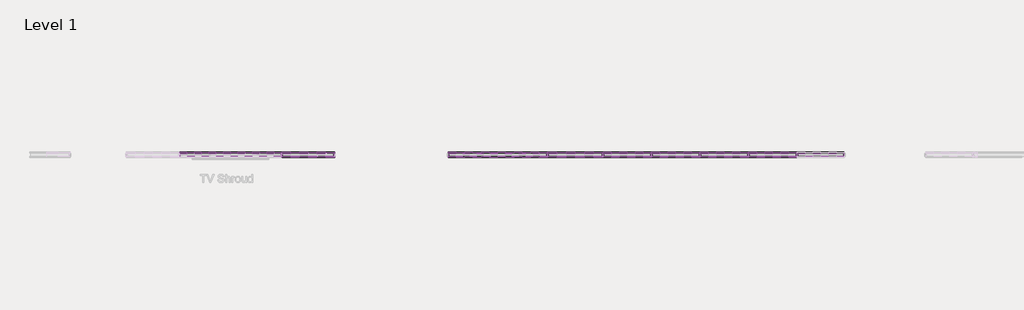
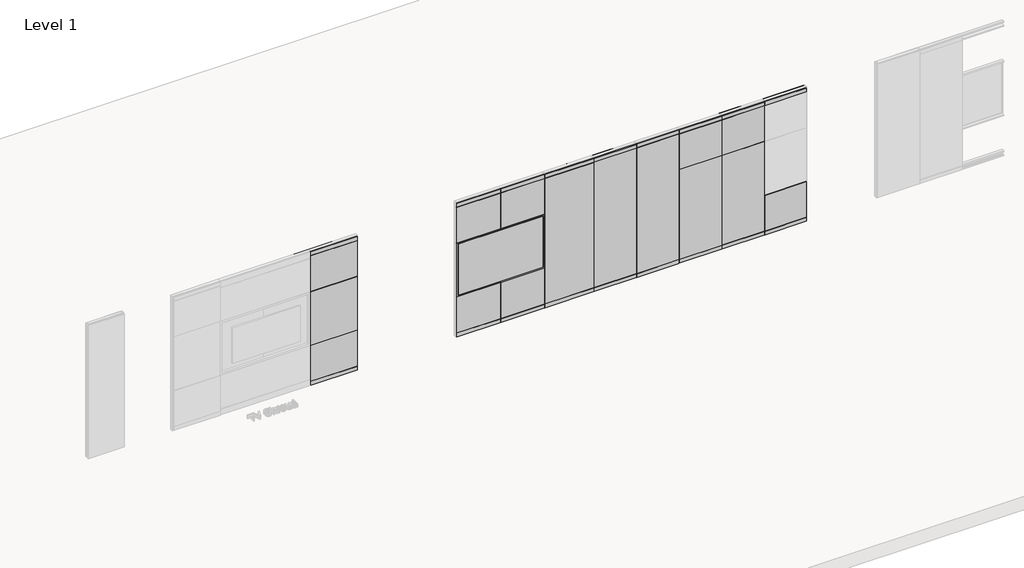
# One storey, part 5 of 22: 106 proxies.
"""IFC4 building model written with IfcOpenShell, lengths in millimetres."""

from ifc_helpers import new_model, si_unit, origin, place, context, project, spatial, transform, mapped, element, save
from components import fascia_teknion_ceiling_and_base_fpb1_fca0640a, fascia_teknion_ceiling_and_base_fpb1_76749516, fascia_teknion_ceiling_and_base_fpb1_3f1045f8, fascia_teknion_ceiling_and_base_fpb1_9cc94717, fascia_teknion_ceiling_and_base_fpb1_c9d9d0ac, fascia_teknion_ceiling_and_base_fpb1_b2a0df2f, fascia_teknion_ceiling_and_base_fpb1_d1f135fe, fascia_teknion_ceiling_and_base_fpb1_22c6959f, fascia_teknion_ceiling_and_base_fpb1_c4170f9c, fascia_teknion_ceiling_and_base_fpb1_a007a032, fascia_teknion_ceiling_and_base_fpb1_f118ea03, frame_teknion_horizontal_rail_5872ae1a, frame_teknion_horizontal_rail_46ee653b, frame_teknion_horizontal_rail_9f707683, frame_teknion_horizontal_rail_d3940d10, frame_teknion_horizontal_rail_569d168c, frame_teknion_horizontal_rail_d62daecc, full_db0fc0de, full_e515b6ae, full_bf9f4bac, level_i_215115a4, level_i_cf48de54, level_i_c1e683c6, level_i_93653ab4, level_i_f9b690e7, level_i_259d5150, level_i_3af106d6, level_ii_d92933f0, level_ii_5838736d, level_ii_eb892959, level_ii_fe5f90b5, level_iii_17d9b208, level_iii_5aa971de, level_iii_61c4658a, level_iii_4beb9e8a, level_iii_939e849f, panel_fascia_teknion_level_ii_f4fefb58, segmented_level_i_b619f2b0, segmented_level_i_235b6383, segmented_level_i_f3371547, segmented_level_i_f396c477, segmented_level_ii_6dac37f0, smart_fascia_c452c61a

model = new_model("IFC4")

# Units and contexts
model_context = context("Model", 3, world=origin())
ifc_project = project(units=[si_unit("LENGTHUNIT", "METRE", prefix="MILLI")], contexts=[model_context])

# Site, building, storey
site = spatial("IfcSite", under=ifc_project)
building = spatial("IfcBuilding", under=site)
storey = spatial("IfcBuildingStorey", under=building, Name="Level 1", Elevation=0.0)

# Proxies
placement = place(None, origin())
fascia_teknion_ceiling_and_base_fpb1_shape = fascia_teknion_ceiling_and_base_fpb1_fca0640a(model_context)
element("IfcBuildingElementProxy", 1, Name="Fascia-Teknion-Ceiling_and_Base : FPB1", ObjectType="Fascia-Teknion-Ceiling_and_Base : FPB1", at=placement, inside=storey, context=model_context, shape_type="MappedRepresentation", body=[
    mapped(fascia_teknion_ceiling_and_base_fpb1_shape, transform((-93753.7687444, 1843.3402105, 15.875), x_axis=(1.0, 0.0, 0.0), y_axis=(0.0, 1.0, 0.0), z_axis=(0.0, 0.0, 1.0))),
])
element("IfcBuildingElementProxy", 2, Name="Fascia-Teknion-Ceiling_and_Base : FPB1", ObjectType="Fascia-Teknion-Ceiling_and_Base : FPB1", at=placement, inside=storey, context=model_context, shape_type="MappedRepresentation", body=[
    mapped(fascia_teknion_ceiling_and_base_fpb1_shape, transform((-92839.3687444, 1843.3402105, 15.875), x_axis=(1.0, 0.0, 0.0), y_axis=(0.0, 1.0, 0.0), z_axis=(0.0, 0.0, 1.0))),
])
element("IfcBuildingElementProxy", 3, Name="Fascia-Teknion-Ceiling_and_Base : FPB1", ObjectType="Fascia-Teknion-Ceiling_and_Base : FPB1", at=placement, inside=storey, context=model_context, shape_type="MappedRepresentation", body=[
    mapped(fascia_teknion_ceiling_and_base_fpb1_shape, transform((-91924.9687444, 1843.3402105, 15.875), x_axis=(1.0, 0.0, 0.0), y_axis=(0.0, 1.0, 0.0), z_axis=(0.0, 0.0, 1.0))),
])
element("IfcBuildingElementProxy", 4, Name="Fascia-Teknion-Ceiling_and_Base : FPB1", ObjectType="Fascia-Teknion-Ceiling_and_Base : FPB1", at=placement, inside=storey, context=model_context, shape_type="MappedRepresentation", body=[
    mapped(fascia_teknion_ceiling_and_base_fpb1_shape, transform((-94668.1687444, 1843.3402105, 15.875), x_axis=(1.0, 0.0, 0.0), y_axis=(0.0, 1.0, 0.0), z_axis=(0.0, 0.0, 1.0))),
])
fascia_teknion_ceiling_and_base_fpb1_2_shape = fascia_teknion_ceiling_and_base_fpb1_76749516(model_context)
element("IfcBuildingElementProxy", 5, Name="Fascia-Teknion-Ceiling_and_Base : FPB1", ObjectType="Fascia-Teknion-Ceiling_and_Base : FPB1", at=placement, inside=storey, context=model_context, shape_type="MappedRepresentation", body=[
    mapped(fascia_teknion_ceiling_and_base_fpb1_2_shape, transform((-91017.5636663, 1843.3402105, 15.875), x_axis=(1.0, 0.0, 0.0), y_axis=(0.0, 1.0, 0.0), z_axis=(0.0, 0.0, 1.0))),
])
fascia_teknion_ceiling_and_base_fpb1_3_shape = fascia_teknion_ceiling_and_base_fpb1_3f1045f8(model_context)
element("IfcBuildingElementProxy", 6, Name="Fascia-Teknion-Ceiling_and_Base : FPB1", ObjectType="Fascia-Teknion-Ceiling_and_Base : FPB1", at=placement, inside=storey, context=model_context, shape_type="MappedRepresentation", body=[
    mapped(fascia_teknion_ceiling_and_base_fpb1_3_shape, transform((-91017.5636663, 1781.3642105, 15.875), x_axis=(1.0, 0.0, 0.0), y_axis=(0.0, 1.0, 0.0), z_axis=(0.0, 0.0, 1.0))),
])
fascia_teknion_ceiling_and_base_fpb1_4_shape = fascia_teknion_ceiling_and_base_fpb1_9cc94717(model_context)
element("IfcBuildingElementProxy", 7, Name="Fascia-Teknion-Ceiling_and_Base : FPB1", ObjectType="Fascia-Teknion-Ceiling_and_Base : FPB1", at=placement, inside=storey, context=model_context, shape_type="MappedRepresentation", body=[
    mapped(fascia_teknion_ceiling_and_base_fpb1_4_shape, transform((-93753.7687444, 1781.3642105, 15.875), x_axis=(1.0, 0.0, 0.0), y_axis=(0.0, 1.0, 0.0), z_axis=(0.0, 0.0, 1.0))),
])
element("IfcBuildingElementProxy", 8, Name="Fascia-Teknion-Ceiling_and_Base : FPB1", ObjectType="Fascia-Teknion-Ceiling_and_Base : FPB1", at=placement, inside=storey, context=model_context, shape_type="MappedRepresentation", body=[
    mapped(fascia_teknion_ceiling_and_base_fpb1_4_shape, transform((-92839.3687444, 1781.3642105, 15.875), x_axis=(1.0, 0.0, 0.0), y_axis=(0.0, 1.0, 0.0), z_axis=(0.0, 0.0, 1.0))),
])
element("IfcBuildingElementProxy", 9, Name="Fascia-Teknion-Ceiling_and_Base : FPB1", ObjectType="Fascia-Teknion-Ceiling_and_Base : FPB1", at=placement, inside=storey, context=model_context, shape_type="MappedRepresentation", body=[
    mapped(fascia_teknion_ceiling_and_base_fpb1_4_shape, transform((-91924.9687444, 1781.3642105, 15.875), x_axis=(1.0, 0.0, 0.0), y_axis=(0.0, 1.0, 0.0), z_axis=(0.0, 0.0, 1.0))),
])
element("IfcBuildingElementProxy", 10, Name="Fascia-Teknion-Ceiling_and_Base : FPB1", ObjectType="Fascia-Teknion-Ceiling_and_Base : FPB1", at=placement, inside=storey, context=model_context, shape_type="MappedRepresentation", body=[
    mapped(fascia_teknion_ceiling_and_base_fpb1_4_shape, transform((-94668.1687444, 1781.3642105, 15.875), x_axis=(1.0, 0.0, 0.0), y_axis=(0.0, 1.0, 0.0), z_axis=(0.0, 0.0, 1.0))),
])
fascia_teknion_ceiling_and_base_fpb1_5_shape = fascia_teknion_ceiling_and_base_fpb1_c9d9d0ac(model_context)
element("IfcBuildingElementProxy", 11, Name="Fascia-Teknion-Ceiling_and_Base : FPB1", ObjectType="Fascia-Teknion-Ceiling_and_Base : FPB1", at=placement, inside=storey, context=model_context, shape_type="MappedRepresentation", body=[
    mapped(fascia_teknion_ceiling_and_base_fpb1_5_shape, transform((-95652.4187444, 1843.3402105, 15.875), x_axis=(1.0, 0.0, 0.0), y_axis=(0.0, 1.0, 0.0), z_axis=(0.0, 0.0, 1.0))),
])
fascia_teknion_ceiling_and_base_fpb1_6_shape = fascia_teknion_ceiling_and_base_fpb1_b2a0df2f(model_context)
element("IfcBuildingElementProxy", 12, Name="Fascia-Teknion-Ceiling_and_Base : FPB1", ObjectType="Fascia-Teknion-Ceiling_and_Base : FPB1", at=placement, inside=storey, context=model_context, shape_type="MappedRepresentation", body=[
    mapped(fascia_teknion_ceiling_and_base_fpb1_6_shape, transform((-95652.4187444, 1781.3642105, 15.875), x_axis=(1.0, 0.0, 0.0), y_axis=(0.0, 1.0, 0.0), z_axis=(0.0, 0.0, 1.0))),
])
fascia_teknion_ceiling_and_base_fpb1_7_shape = fascia_teknion_ceiling_and_base_fpb1_d1f135fe(model_context)
element("IfcBuildingElementProxy", 13, Name="Fascia-Teknion-Ceiling_and_Base : FPB1", ObjectType="Fascia-Teknion-Ceiling_and_Base : FPB1", at=placement, inside=storey, context=model_context, shape_type="MappedRepresentation", body=[
    mapped(fascia_teknion_ceiling_and_base_fpb1_7_shape, transform((-97586.6138616, 1843.3402105, 15.875), x_axis=(1.0, 0.0, 0.0), y_axis=(0.0, 1.0, 0.0), z_axis=(0.0, 0.0, 1.0))),
])
element("IfcBuildingElementProxy", 14, Name="Fascia-Teknion-Ceiling_and_Base : FPB1", ObjectType="Fascia-Teknion-Ceiling_and_Base : FPB1", at=placement, inside=storey, context=model_context, shape_type="MappedRepresentation", body=[
    mapped(fascia_teknion_ceiling_and_base_fpb1_7_shape, transform((-96650.6337835, 1781.3642105, 15.875), x_axis=(-1.0, 0.0, 0.0), y_axis=(0.0, -1.0, 0.0), z_axis=(0.0, 0.0, 1.0))),
])
fascia_teknion_ceiling_and_base_fpb1_8_shape = fascia_teknion_ceiling_and_base_fpb1_22c6959f(model_context)
element("IfcBuildingElementProxy", 15, Name="Fascia-Teknion-Ceiling_and_Base : FPB1", ObjectType="Fascia-Teknion-Ceiling_and_Base : FPB1", at=placement, inside=storey, context=model_context, shape_type="MappedRepresentation", body=[
    mapped(fascia_teknion_ceiling_and_base_fpb1_8_shape, transform((-97586.6138616, 1781.3642105, 15.875), x_axis=(1.0, 0.0, 0.0), y_axis=(0.0, 1.0, 0.0), z_axis=(0.0, 0.0, 1.0))),
])
element("IfcBuildingElementProxy", 16, Name="Fascia-Teknion-Ceiling_and_Base : FPB1", ObjectType="Fascia-Teknion-Ceiling_and_Base : FPB1", at=placement, inside=storey, context=model_context, shape_type="MappedRepresentation", body=[
    mapped(fascia_teknion_ceiling_and_base_fpb1_8_shape, transform((-96650.6337835, 1843.3402105, 15.875), x_axis=(-1.0, 0.0, 0.0), y_axis=(0.0, -1.0, 0.0), z_axis=(0.0, 0.0, 1.0))),
])
fascia_teknion_ceiling_and_base_fpb1_9_shape = fascia_teknion_ceiling_and_base_fpb1_c4170f9c(model_context)
element("IfcBuildingElementProxy", 17, Name="Fascia-Teknion-Ceiling_and_Base : FPB1", ObjectType="Fascia-Teknion-Ceiling_and_Base : FPB1", at=placement, inside=storey, context=model_context, shape_type="MappedRepresentation", body=[
    mapped(fascia_teknion_ceiling_and_base_fpb1_9_shape, transform((-100694.0703506, 1843.3402105, 15.875), x_axis=(-1.0, 0.0, 0.0), y_axis=(0.0, -1.0, 0.0), z_axis=(0.0, 0.0, 1.0))),
])
fascia_teknion_ceiling_and_base_fpb1_10_shape = fascia_teknion_ceiling_and_base_fpb1_a007a032(model_context)
element("IfcBuildingElementProxy", 18, Name="Fascia-Teknion-Ceiling_and_Base : FPB1", ObjectType="Fascia-Teknion-Ceiling_and_Base : FPB1", at=placement, inside=storey, context=model_context, shape_type="MappedRepresentation", body=[
    mapped(fascia_teknion_ceiling_and_base_fpb1_10_shape, transform((-100694.0703506, 1781.3642105, 15.875), x_axis=(-1.0, 0.0, 0.0), y_axis=(0.0, -1.0, 0.0), z_axis=(0.0, 0.0, 1.0))),
])
element("IfcBuildingElementProxy", 19, Name="Fascia-Teknion-Ceiling_and_Base : FPC", ObjectType="Fascia-Teknion-Ceiling_and_Base : FPC", at=placement, inside=storey, context=model_context, shape_type="MappedRepresentation", body=[
    mapped(fascia_teknion_ceiling_and_base_fpb1_shape, transform((-93753.7687444, 1843.3402105, 2950.845), x_axis=(1.0, 0.0, 0.0), y_axis=(0.0, 1.0, 0.0), z_axis=(0.0, 0.0, 1.0))),
])
element("IfcBuildingElementProxy", 20, Name="Fascia-Teknion-Ceiling_and_Base : FPC", ObjectType="Fascia-Teknion-Ceiling_and_Base : FPC", at=placement, inside=storey, context=model_context, shape_type="MappedRepresentation", body=[
    mapped(fascia_teknion_ceiling_and_base_fpb1_shape, transform((-92839.3687444, 1843.3402105, 2950.845), x_axis=(1.0, 0.0, 0.0), y_axis=(0.0, 1.0, 0.0), z_axis=(0.0, 0.0, 1.0))),
])
element("IfcBuildingElementProxy", 21, Name="Fascia-Teknion-Ceiling_and_Base : FPC", ObjectType="Fascia-Teknion-Ceiling_and_Base : FPC", at=placement, inside=storey, context=model_context, shape_type="MappedRepresentation", body=[
    mapped(fascia_teknion_ceiling_and_base_fpb1_shape, transform((-91924.9687444, 1843.3402105, 2950.845), x_axis=(1.0, 0.0, 0.0), y_axis=(0.0, 1.0, 0.0), z_axis=(0.0, 0.0, 1.0))),
])
element("IfcBuildingElementProxy", 22, Name="Fascia-Teknion-Ceiling_and_Base : FPC", ObjectType="Fascia-Teknion-Ceiling_and_Base : FPC", at=placement, inside=storey, context=model_context, shape_type="MappedRepresentation", body=[
    mapped(fascia_teknion_ceiling_and_base_fpb1_shape, transform((-94668.1687444, 1843.3402105, 2950.845), x_axis=(1.0, 0.0, 0.0), y_axis=(0.0, 1.0, 0.0), z_axis=(0.0, 0.0, 1.0))),
])
element("IfcBuildingElementProxy", 23, Name="Fascia-Teknion-Ceiling_and_Base : FPC", ObjectType="Fascia-Teknion-Ceiling_and_Base : FPC", at=placement, inside=storey, context=model_context, shape_type="MappedRepresentation", body=[
    mapped(fascia_teknion_ceiling_and_base_fpb1_4_shape, transform((-93753.7687444, 1781.3642105, 2950.845), x_axis=(1.0, 0.0, 0.0), y_axis=(0.0, 1.0, 0.0), z_axis=(0.0, 0.0, 1.0))),
])
element("IfcBuildingElementProxy", 24, Name="Fascia-Teknion-Ceiling_and_Base : FPC", ObjectType="Fascia-Teknion-Ceiling_and_Base : FPC", at=placement, inside=storey, context=model_context, shape_type="MappedRepresentation", body=[
    mapped(fascia_teknion_ceiling_and_base_fpb1_4_shape, transform((-92839.3687444, 1781.3642105, 2950.845), x_axis=(1.0, 0.0, 0.0), y_axis=(0.0, 1.0, 0.0), z_axis=(0.0, 0.0, 1.0))),
])
element("IfcBuildingElementProxy", 25, Name="Fascia-Teknion-Ceiling_and_Base : FPC", ObjectType="Fascia-Teknion-Ceiling_and_Base : FPC", at=placement, inside=storey, context=model_context, shape_type="MappedRepresentation", body=[
    mapped(fascia_teknion_ceiling_and_base_fpb1_4_shape, transform((-91924.9687444, 1781.3642105, 2950.845), x_axis=(1.0, 0.0, 0.0), y_axis=(0.0, 1.0, 0.0), z_axis=(0.0, 0.0, 1.0))),
])
element("IfcBuildingElementProxy", 26, Name="Fascia-Teknion-Ceiling_and_Base : FPC", ObjectType="Fascia-Teknion-Ceiling_and_Base : FPC", at=placement, inside=storey, context=model_context, shape_type="MappedRepresentation", body=[
    mapped(fascia_teknion_ceiling_and_base_fpb1_4_shape, transform((-94668.1687444, 1781.3642105, 2950.845), x_axis=(1.0, 0.0, 0.0), y_axis=(0.0, 1.0, 0.0), z_axis=(0.0, 0.0, 1.0))),
])
element("IfcBuildingElementProxy", 27, Name="Fascia-Teknion-Ceiling_and_Base : FPC", ObjectType="Fascia-Teknion-Ceiling_and_Base : FPC", at=placement, inside=storey, context=model_context, shape_type="MappedRepresentation", body=[
    mapped(fascia_teknion_ceiling_and_base_fpb1_2_shape, transform((-91017.5636663, 1843.3402105, 2950.845), x_axis=(1.0, 0.0, 0.0), y_axis=(0.0, 1.0, 0.0), z_axis=(0.0, 0.0, 1.0))),
])
element("IfcBuildingElementProxy", 28, Name="Fascia-Teknion-Ceiling_and_Base : FPC", ObjectType="Fascia-Teknion-Ceiling_and_Base : FPC", at=placement, inside=storey, context=model_context, shape_type="MappedRepresentation", body=[
    mapped(fascia_teknion_ceiling_and_base_fpb1_3_shape, transform((-91017.5636663, 1781.3642105, 2950.845), x_axis=(1.0, 0.0, 0.0), y_axis=(0.0, 1.0, 0.0), z_axis=(0.0, 0.0, 1.0))),
])
element("IfcBuildingElementProxy", 29, Name="Fascia-Teknion-Ceiling_and_Base : FPC", ObjectType="Fascia-Teknion-Ceiling_and_Base : FPC", at=placement, inside=storey, context=model_context, shape_type="MappedRepresentation", body=[
    mapped(fascia_teknion_ceiling_and_base_fpb1_5_shape, transform((-95652.4187444, 1843.3402105, 2950.845), x_axis=(1.0, 0.0, 0.0), y_axis=(0.0, 1.0, 0.0), z_axis=(0.0, 0.0, 1.0))),
])
element("IfcBuildingElementProxy", 30, Name="Fascia-Teknion-Ceiling_and_Base : FPC", ObjectType="Fascia-Teknion-Ceiling_and_Base : FPC", at=placement, inside=storey, context=model_context, shape_type="MappedRepresentation", body=[
    mapped(fascia_teknion_ceiling_and_base_fpb1_6_shape, transform((-95652.4187444, 1781.3642105, 2950.845), x_axis=(1.0, 0.0, 0.0), y_axis=(0.0, 1.0, 0.0), z_axis=(0.0, 0.0, 1.0))),
])
element("IfcBuildingElementProxy", 31, Name="Fascia-Teknion-Ceiling_and_Base : FPC", ObjectType="Fascia-Teknion-Ceiling_and_Base : FPC", at=placement, inside=storey, context=model_context, shape_type="MappedRepresentation", body=[
    mapped(fascia_teknion_ceiling_and_base_fpb1_7_shape, transform((-97586.6138616, 1843.3402105, 2950.845), x_axis=(1.0, 0.0, 0.0), y_axis=(0.0, 1.0, 0.0), z_axis=(0.0, 0.0, 1.0))),
])
element("IfcBuildingElementProxy", 32, Name="Fascia-Teknion-Ceiling_and_Base : FPC", ObjectType="Fascia-Teknion-Ceiling_and_Base : FPC", at=placement, inside=storey, context=model_context, shape_type="MappedRepresentation", body=[
    mapped(fascia_teknion_ceiling_and_base_fpb1_7_shape, transform((-96650.6337835, 1781.3642105, 2950.845), x_axis=(-1.0, 0.0, 0.0), y_axis=(0.0, -1.0, 0.0), z_axis=(0.0, 0.0, 1.0))),
])
element("IfcBuildingElementProxy", 33, Name="Fascia-Teknion-Ceiling_and_Base : FPC", ObjectType="Fascia-Teknion-Ceiling_and_Base : FPC", at=placement, inside=storey, context=model_context, shape_type="MappedRepresentation", body=[
    mapped(fascia_teknion_ceiling_and_base_fpb1_8_shape, transform((-97586.6138616, 1781.3642105, 2950.845), x_axis=(1.0, 0.0, 0.0), y_axis=(0.0, 1.0, 0.0), z_axis=(0.0, 0.0, 1.0))),
])
element("IfcBuildingElementProxy", 34, Name="Fascia-Teknion-Ceiling_and_Base : FPC", ObjectType="Fascia-Teknion-Ceiling_and_Base : FPC", at=placement, inside=storey, context=model_context, shape_type="MappedRepresentation", body=[
    mapped(fascia_teknion_ceiling_and_base_fpb1_8_shape, transform((-96650.6337835, 1843.3402105, 2950.845), x_axis=(-1.0, 0.0, 0.0), y_axis=(0.0, -1.0, 0.0), z_axis=(0.0, 0.0, 1.0))),
])
element("IfcBuildingElementProxy", 35, Name="Fascia-Teknion-Ceiling_and_Base : FPC", ObjectType="Fascia-Teknion-Ceiling_and_Base : FPC", at=placement, inside=storey, context=model_context, shape_type="MappedRepresentation", body=[
    mapped(fascia_teknion_ceiling_and_base_fpb1_9_shape, transform((-100694.0703506, 1843.3402105, 2900.045), x_axis=(-1.0, 0.0, 0.0), y_axis=(0.0, -1.0, 0.0), z_axis=(0.0, 0.0, 1.0))),
])
element("IfcBuildingElementProxy", 36, Name="Fascia-Teknion-Ceiling_and_Base : FPC", ObjectType="Fascia-Teknion-Ceiling_and_Base : FPC", at=placement, inside=storey, context=model_context, shape_type="MappedRepresentation", body=[
    mapped(fascia_teknion_ceiling_and_base_fpb1_10_shape, transform((-100694.0703506, 1781.3642105, 2950.845), x_axis=(-1.0, 0.0, 0.0), y_axis=(0.0, -1.0, 0.0), z_axis=(0.0, 0.0, 1.0))),
])
fascia_teknion_ceiling_and_base_fpb1_11_shape = fascia_teknion_ceiling_and_base_fpb1_f118ea03(model_context)
element("IfcBuildingElementProxy", 37, Name="Fascia-Teknion-Ceiling_and_Base : FPC", ObjectType="Fascia-Teknion-Ceiling_and_Base : FPC", at=placement, inside=storey, context=model_context, shape_type="MappedRepresentation", body=[
    mapped(fascia_teknion_ceiling_and_base_fpb1_11_shape, transform((-102160.2754287, 1862.357315, 2900.045), x_axis=(-1.0, 0.0, 0.0), y_axis=(0.0, -1.0, 0.0), z_axis=(0.0, 0.0, 1.0))),
])
frame_teknion_horizontal_rail_shape = frame_teknion_horizontal_rail_5872ae1a(model_context)
element("IfcBuildingElementProxy", 38, Name="Frame-Teknion-Horizontal_Rail : FPKK", ObjectType="Frame-Teknion-Horizontal_Rail : FPKK", at=placement, inside=storey, context=model_context, shape_type="MappedRepresentation", body=[
    mapped(frame_teknion_horizontal_rail_shape, transform((-91017.5636663, 1812.3522105, 917.575), x_axis=(1.0, 0.0, 0.0), y_axis=(0.0, 1.0, 0.0), z_axis=(0.0, 0.0, 1.0))),
])
element("IfcBuildingElementProxy", 39, Name="Frame-Teknion-Horizontal_Rail : FPKK", ObjectType="Frame-Teknion-Horizontal_Rail : FPKK", at=placement, inside=storey, context=model_context, shape_type="MappedRepresentation", body=[
    mapped(frame_teknion_horizontal_rail_shape, transform((-91017.5636663, 1812.3522105, 2136.775), x_axis=(1.0, 0.0, 0.0), y_axis=(0.0, 1.0, 0.0), z_axis=(0.0, 0.0, 1.0))),
])
element("IfcBuildingElementProxy", 40, Name="Frame-Teknion-Horizontal_Rail : FPKK", ObjectType="Frame-Teknion-Horizontal_Rail : FPKK", at=placement, inside=storey, context=model_context, shape_type="MappedRepresentation", body=[
    mapped(frame_teknion_horizontal_rail_shape, transform((-91017.5636663, 1812.3522105, 97.155), x_axis=(1.0, 0.0, 0.0), y_axis=(0.0, 1.0, 0.0), z_axis=(0.0, 0.0, 1.0))),
])
element("IfcBuildingElementProxy", 41, Name="Frame-Teknion-Horizontal_Rail : FPKK", ObjectType="Frame-Teknion-Horizontal_Rail : FPKK", at=placement, inside=storey, context=model_context, shape_type="MappedRepresentation", body=[
    mapped(frame_teknion_horizontal_rail_shape, transform((-91017.5636663, 1812.3522105, 2949.1305), x_axis=(1.0, 0.0, 0.0), y_axis=(0.0, 1.0, 0.0), z_axis=(0.0, 0.0, 1.0))),
])
frame_teknion_horizontal_rail_2_shape = frame_teknion_horizontal_rail_46ee653b(model_context)
element("IfcBuildingElementProxy", 42, Name="Frame-Teknion-Horizontal_Rail : FPKK", ObjectType="Frame-Teknion-Horizontal_Rail : FPKK", at=placement, inside=storey, context=model_context, shape_type="MappedRepresentation", body=[
    mapped(frame_teknion_horizontal_rail_2_shape, transform((-93753.7687444, 1812.3522105, 917.575), x_axis=(1.0, 0.0, 0.0), y_axis=(0.0, 1.0, 0.0), z_axis=(0.0, 0.0, 1.0))),
])
element("IfcBuildingElementProxy", 43, Name="Frame-Teknion-Horizontal_Rail : FPKK", ObjectType="Frame-Teknion-Horizontal_Rail : FPKK", at=placement, inside=storey, context=model_context, shape_type="MappedRepresentation", body=[
    mapped(frame_teknion_horizontal_rail_2_shape, transform((-93753.7687444, 1812.3522105, 2136.775), x_axis=(1.0, 0.0, 0.0), y_axis=(0.0, 1.0, 0.0), z_axis=(0.0, 0.0, 1.0))),
])
element("IfcBuildingElementProxy", 44, Name="Frame-Teknion-Horizontal_Rail : FPKK", ObjectType="Frame-Teknion-Horizontal_Rail : FPKK", at=placement, inside=storey, context=model_context, shape_type="MappedRepresentation", body=[
    mapped(frame_teknion_horizontal_rail_2_shape, transform((-92839.3687444, 1812.3522105, 2136.775), x_axis=(1.0, 0.0, 0.0), y_axis=(0.0, 1.0, 0.0), z_axis=(0.0, 0.0, 1.0))),
])
element("IfcBuildingElementProxy", 45, Name="Frame-Teknion-Horizontal_Rail : FPKK", ObjectType="Frame-Teknion-Horizontal_Rail : FPKK", at=placement, inside=storey, context=model_context, shape_type="MappedRepresentation", body=[
    mapped(frame_teknion_horizontal_rail_2_shape, transform((-91924.9687444, 1812.3522105, 917.575), x_axis=(1.0, 0.0, 0.0), y_axis=(0.0, 1.0, 0.0), z_axis=(0.0, 0.0, 1.0))),
])
element("IfcBuildingElementProxy", 46, Name="Frame-Teknion-Horizontal_Rail : FPKK", ObjectType="Frame-Teknion-Horizontal_Rail : FPKK", at=placement, inside=storey, context=model_context, shape_type="MappedRepresentation", body=[
    mapped(frame_teknion_horizontal_rail_2_shape, transform((-91924.9687444, 1812.3522105, 2136.775), x_axis=(1.0, 0.0, 0.0), y_axis=(0.0, 1.0, 0.0), z_axis=(0.0, 0.0, 1.0))),
])
element("IfcBuildingElementProxy", 47, Name="Frame-Teknion-Horizontal_Rail : FPKK", ObjectType="Frame-Teknion-Horizontal_Rail : FPKK", at=placement, inside=storey, context=model_context, shape_type="MappedRepresentation", body=[
    mapped(frame_teknion_horizontal_rail_2_shape, transform((-94668.1687444, 1812.3522105, 2136.775), x_axis=(1.0, 0.0, 0.0), y_axis=(0.0, 1.0, 0.0), z_axis=(0.0, 0.0, 1.0))),
])
element("IfcBuildingElementProxy", 48, Name="Frame-Teknion-Horizontal_Rail : FPKK", ObjectType="Frame-Teknion-Horizontal_Rail : FPKK", at=placement, inside=storey, context=model_context, shape_type="MappedRepresentation", body=[
    mapped(frame_teknion_horizontal_rail_2_shape, transform((-93753.7687444, 1812.3522105, 97.155), x_axis=(1.0, 0.0, 0.0), y_axis=(0.0, 1.0, 0.0), z_axis=(0.0, 0.0, 1.0))),
])
element("IfcBuildingElementProxy", 49, Name="Frame-Teknion-Horizontal_Rail : FPKK", ObjectType="Frame-Teknion-Horizontal_Rail : FPKK", at=placement, inside=storey, context=model_context, shape_type="MappedRepresentation", body=[
    mapped(frame_teknion_horizontal_rail_2_shape, transform((-93753.7687444, 1812.3522105, 2949.1305), x_axis=(1.0, 0.0, 0.0), y_axis=(0.0, 1.0, 0.0), z_axis=(0.0, 0.0, 1.0))),
])
element("IfcBuildingElementProxy", 50, Name="Frame-Teknion-Horizontal_Rail : FPKK", ObjectType="Frame-Teknion-Horizontal_Rail : FPKK", at=placement, inside=storey, context=model_context, shape_type="MappedRepresentation", body=[
    mapped(frame_teknion_horizontal_rail_2_shape, transform((-92839.3687444, 1812.3522105, 97.155), x_axis=(1.0, 0.0, 0.0), y_axis=(0.0, 1.0, 0.0), z_axis=(0.0, 0.0, 1.0))),
])
element("IfcBuildingElementProxy", 51, Name="Frame-Teknion-Horizontal_Rail : FPKK", ObjectType="Frame-Teknion-Horizontal_Rail : FPKK", at=placement, inside=storey, context=model_context, shape_type="MappedRepresentation", body=[
    mapped(frame_teknion_horizontal_rail_2_shape, transform((-92839.3687444, 1812.3522105, 2949.1305), x_axis=(1.0, 0.0, 0.0), y_axis=(0.0, 1.0, 0.0), z_axis=(0.0, 0.0, 1.0))),
])
element("IfcBuildingElementProxy", 52, Name="Frame-Teknion-Horizontal_Rail : FPKK", ObjectType="Frame-Teknion-Horizontal_Rail : FPKK", at=placement, inside=storey, context=model_context, shape_type="MappedRepresentation", body=[
    mapped(frame_teknion_horizontal_rail_2_shape, transform((-91924.9687444, 1812.3522105, 97.155), x_axis=(1.0, 0.0, 0.0), y_axis=(0.0, 1.0, 0.0), z_axis=(0.0, 0.0, 1.0))),
])
element("IfcBuildingElementProxy", 53, Name="Frame-Teknion-Horizontal_Rail : FPKK", ObjectType="Frame-Teknion-Horizontal_Rail : FPKK", at=placement, inside=storey, context=model_context, shape_type="MappedRepresentation", body=[
    mapped(frame_teknion_horizontal_rail_2_shape, transform((-91924.9687444, 1812.3522105, 2949.1305), x_axis=(1.0, 0.0, 0.0), y_axis=(0.0, 1.0, 0.0), z_axis=(0.0, 0.0, 1.0))),
])
element("IfcBuildingElementProxy", 54, Name="Frame-Teknion-Horizontal_Rail : FPKK", ObjectType="Frame-Teknion-Horizontal_Rail : FPKK", at=placement, inside=storey, context=model_context, shape_type="MappedRepresentation", body=[
    mapped(frame_teknion_horizontal_rail_2_shape, transform((-94668.1687444, 1812.3522105, 97.155), x_axis=(1.0, 0.0, 0.0), y_axis=(0.0, 1.0, 0.0), z_axis=(0.0, 0.0, 1.0))),
])
element("IfcBuildingElementProxy", 55, Name="Frame-Teknion-Horizontal_Rail : FPKK", ObjectType="Frame-Teknion-Horizontal_Rail : FPKK", at=placement, inside=storey, context=model_context, shape_type="MappedRepresentation", body=[
    mapped(frame_teknion_horizontal_rail_2_shape, transform((-94668.1687444, 1812.3522105, 2949.1305), x_axis=(1.0, 0.0, 0.0), y_axis=(0.0, 1.0, 0.0), z_axis=(0.0, 0.0, 1.0))),
])
frame_teknion_horizontal_rail_3_shape = frame_teknion_horizontal_rail_9f707683(model_context)
element("IfcBuildingElementProxy", 56, Name="Frame-Teknion-Horizontal_Rail : FPKK", ObjectType="Frame-Teknion-Horizontal_Rail : FPKK", at=placement, inside=storey, context=model_context, shape_type="MappedRepresentation", body=[
    mapped(frame_teknion_horizontal_rail_3_shape, transform((-95652.4187444, 1812.3522105, 97.155), x_axis=(1.0, 0.0, 0.0), y_axis=(0.0, 1.0, 0.0), z_axis=(0.0, 0.0, 1.0))),
])
element("IfcBuildingElementProxy", 57, Name="Frame-Teknion-Horizontal_Rail : FPKK", ObjectType="Frame-Teknion-Horizontal_Rail : FPKK", at=placement, inside=storey, context=model_context, shape_type="MappedRepresentation", body=[
    mapped(frame_teknion_horizontal_rail_3_shape, transform((-95652.4187444, 1812.3522105, 2949.1305), x_axis=(1.0, 0.0, 0.0), y_axis=(0.0, 1.0, 0.0), z_axis=(0.0, 0.0, 1.0))),
])
frame_teknion_horizontal_rail_4_shape = frame_teknion_horizontal_rail_d3940d10(model_context)
element("IfcBuildingElementProxy", 58, Name="Frame-Teknion-Horizontal_Rail : FPKK", ObjectType="Frame-Teknion-Horizontal_Rail : FPKK", at=placement, inside=storey, context=model_context, shape_type="MappedRepresentation", body=[
    mapped(frame_teknion_horizontal_rail_4_shape, transform((-97118.6238225, 1812.3522105, 917.575), x_axis=(1.0, 0.0, 0.0), y_axis=(0.0, 1.0, 0.0), z_axis=(0.0, 0.0, 1.0))),
])
element("IfcBuildingElementProxy", 59, Name="Frame-Teknion-Horizontal_Rail : FPKK", ObjectType="Frame-Teknion-Horizontal_Rail : FPKK", at=placement, inside=storey, context=model_context, shape_type="MappedRepresentation", body=[
    mapped(frame_teknion_horizontal_rail_4_shape, transform((-97118.6238225, 1812.3522105, 2136.775), x_axis=(1.0, 0.0, 0.0), y_axis=(0.0, 1.0, 0.0), z_axis=(0.0, 0.0, 1.0))),
])
element("IfcBuildingElementProxy", 60, Name="Frame-Teknion-Horizontal_Rail : FPKK", ObjectType="Frame-Teknion-Horizontal_Rail : FPKK", at=placement, inside=storey, context=model_context, shape_type="MappedRepresentation", body=[
    mapped(frame_teknion_horizontal_rail_4_shape, transform((-97118.6238225, 1812.3522105, 97.155), x_axis=(1.0, 0.0, 0.0), y_axis=(0.0, 1.0, 0.0), z_axis=(0.0, 0.0, 1.0))),
])
element("IfcBuildingElementProxy", 61, Name="Frame-Teknion-Horizontal_Rail : FPKK", ObjectType="Frame-Teknion-Horizontal_Rail : FPKK", at=placement, inside=storey, context=model_context, shape_type="MappedRepresentation", body=[
    mapped(frame_teknion_horizontal_rail_4_shape, transform((-97118.6238225, 1812.3522105, 2949.1305), x_axis=(1.0, 0.0, 0.0), y_axis=(0.0, 1.0, 0.0), z_axis=(0.0, 0.0, 1.0))),
])
frame_teknion_horizontal_rail_5_shape = frame_teknion_horizontal_rail_569d168c(model_context)
element("IfcBuildingElementProxy", 62, Name="Frame-Teknion-Horizontal_Rail : FPKK", ObjectType="Frame-Teknion-Horizontal_Rail : FPKK", at=placement, inside=storey, context=model_context, shape_type="MappedRepresentation", body=[
    mapped(frame_teknion_horizontal_rail_5_shape, transform((-100694.0703506, 1812.3522105, 151.257), x_axis=(-1.0, 0.0, 0.0), y_axis=(0.0, -1.0, 0.0), z_axis=(0.0, 0.0, 1.0))),
])
element("IfcBuildingElementProxy", 63, Name="Frame-Teknion-Horizontal_Rail : FPKK", ObjectType="Frame-Teknion-Horizontal_Rail : FPKK", at=placement, inside=storey, context=model_context, shape_type="MappedRepresentation", body=[
    mapped(frame_teknion_horizontal_rail_5_shape, transform((-100694.0703506, 1812.3522105, 2898.3305), x_axis=(-1.0, 0.0, 0.0), y_axis=(0.0, -1.0, 0.0), z_axis=(0.0, 0.0, 1.0))),
])
element("IfcBuildingElementProxy", 64, Name="Frame-Teknion-Horizontal_Rail : FPKK", ObjectType="Frame-Teknion-Horizontal_Rail : FPKK", at=placement, inside=storey, context=model_context, shape_type="MappedRepresentation", body=[
    mapped(frame_teknion_horizontal_rail_5_shape, transform((-100694.0703506, 1812.3522105, 917.575), x_axis=(-1.0, 0.0, 0.0), y_axis=(0.0, -1.0, 0.0), z_axis=(0.0, 0.0, 1.0))),
])
element("IfcBuildingElementProxy", 65, Name="Frame-Teknion-Horizontal_Rail : FPKK", ObjectType="Frame-Teknion-Horizontal_Rail : FPKK", at=placement, inside=storey, context=model_context, shape_type="MappedRepresentation", body=[
    mapped(frame_teknion_horizontal_rail_5_shape, transform((-100694.0703506, 1812.3522105, 2136.775), x_axis=(-1.0, 0.0, 0.0), y_axis=(0.0, -1.0, 0.0), z_axis=(0.0, 0.0, 1.0))),
])
element("IfcBuildingElementProxy", 66, Name="Frame-Teknion-Horizontal_Rail : FPKK", ObjectType="Frame-Teknion-Horizontal_Rail : FPKK", at=placement, inside=storey, context=model_context, shape_type="MappedRepresentation", body=[
    mapped(frame_teknion_horizontal_rail_5_shape, transform((-100694.0703506, 1812.3522105, 97.155), x_axis=(-1.0, 0.0, 0.0), y_axis=(0.0, -1.0, 0.0), z_axis=(0.0, 0.0, 1.0))),
])
element("IfcBuildingElementProxy", 67, Name="Frame-Teknion-Horizontal_Rail : FPKK", ObjectType="Frame-Teknion-Horizontal_Rail : FPKK", at=placement, inside=storey, context=model_context, shape_type="MappedRepresentation", body=[
    mapped(frame_teknion_horizontal_rail_5_shape, transform((-100694.0703506, 1812.3522105, 2949.1305), x_axis=(-1.0, 0.0, 0.0), y_axis=(0.0, -1.0, 0.0), z_axis=(0.0, 0.0, 1.0))),
])
frame_teknion_horizontal_rail_6_shape = frame_teknion_horizontal_rail_d62daecc(model_context)
element("IfcBuildingElementProxy", 68, Name="Frame-Teknion-Horizontal_Rail : FPKK", ObjectType="Frame-Teknion-Horizontal_Rail : FPKK", at=placement, inside=storey, context=model_context, shape_type="MappedRepresentation", body=[
    mapped(frame_teknion_horizontal_rail_6_shape, transform((-102160.2754287, 1812.351065, 151.257), x_axis=(-1.0, 0.0, 0.0), y_axis=(0.0, -1.0, 0.0), z_axis=(0.0, 0.0, 1.0))),
])
element("IfcBuildingElementProxy", 69, Name="Frame-Teknion-Horizontal_Rail : FPKK", ObjectType="Frame-Teknion-Horizontal_Rail : FPKK", at=placement, inside=storey, context=model_context, shape_type="MappedRepresentation", body=[
    mapped(frame_teknion_horizontal_rail_6_shape, transform((-102160.2754287, 1812.351065, 2896.87), x_axis=(-1.0, 0.0, 0.0), y_axis=(0.0, -1.0, 0.0), z_axis=(0.0, 0.0, 1.0))),
])
full_shape = full_db0fc0de(model_context)
element("IfcBuildingElementProxy", 70, Name="Panel-Fascia-Teknion-Altos-Standard : Full", ObjectType="Panel-Fascia-Teknion-Altos-Standard : Full", at=placement, inside=storey, context=model_context, shape_type="MappedRepresentation", body=[
    mapped(full_shape, transform((-93753.7687444, 1771.8392105, 100.457), x_axis=(1.0, 0.0, 0.0), y_axis=(0.0, 1.0, 0.0), z_axis=(0.0, 0.0, 1.0))),
])
element("IfcBuildingElementProxy", 71, Name="Panel-Fascia-Teknion-Altos-Standard : Full", ObjectType="Panel-Fascia-Teknion-Altos-Standard : Full", at=placement, inside=storey, context=model_context, shape_type="MappedRepresentation", body=[
    mapped(full_shape, transform((-94668.1687444, 1771.8392105, 100.457), x_axis=(1.0, 0.0, 0.0), y_axis=(0.0, 1.0, 0.0), z_axis=(0.0, 0.0, 1.0))),
])
full_2_shape = full_e515b6ae(model_context)
element("IfcBuildingElementProxy", 72, Name="Panel-Fascia-Teknion-Altos-Standard : Full", ObjectType="Panel-Fascia-Teknion-Altos-Standard : Full", at=placement, inside=storey, context=model_context, shape_type="MappedRepresentation", body=[
    mapped(full_2_shape, transform((-95652.4187444, 1771.8392105, 100.457), x_axis=(1.0, 0.0, 0.0), y_axis=(0.0, 1.0, 0.0), z_axis=(0.0, 0.0, 1.0))),
])
full_3_shape = full_bf9f4bac(model_context)
element("IfcBuildingElementProxy", 73, Name="Panel-Fascia-Teknion-Altos-Standard : Full", ObjectType="Panel-Fascia-Teknion-Altos-Standard : Full", at=placement, inside=storey, context=model_context, shape_type="MappedRepresentation", body=[
    mapped(full_3_shape, transform((-95652.4187444, 1852.8652105, 100.457), x_axis=(1.0, 0.0, 0.0), y_axis=(0.0, 1.0, 0.0), z_axis=(0.0, 0.0, 1.0))),
])
level_i_shape = level_i_215115a4(model_context)
element("IfcBuildingElementProxy", 74, Name="Panel-Fascia-Teknion-Altos-Standard : Level I", ObjectType="Panel-Fascia-Teknion-Altos-Standard : Level I", at=placement, inside=storey, context=model_context, shape_type="MappedRepresentation", body=[
    mapped(level_i_shape, transform((-91924.9687444, 1852.8652105, 100.457), x_axis=(1.0, 0.0, 0.0), y_axis=(0.0, 1.0, 0.0), z_axis=(0.0, 0.0, 1.0))),
])
element("IfcBuildingElementProxy", 75, Name="Panel-Fascia-Teknion-Altos-Standard : Level I", ObjectType="Panel-Fascia-Teknion-Altos-Standard : Level I", at=placement, inside=storey, context=model_context, shape_type="MappedRepresentation", body=[
    mapped(level_i_shape, transform((-93753.7687444, 1852.8652105, 100.457), x_axis=(1.0, 0.0, 0.0), y_axis=(0.0, 1.0, 0.0), z_axis=(0.0, 0.0, 1.0))),
])
level_i_2_shape = level_i_cf48de54(model_context)
element("IfcBuildingElementProxy", 76, Name="Panel-Fascia-Teknion-Altos-Standard : Level I", ObjectType="Panel-Fascia-Teknion-Altos-Standard : Level I", at=placement, inside=storey, context=model_context, shape_type="MappedRepresentation", body=[
    mapped(level_i_2_shape, transform((-91017.5636663, 1852.8652105, 100.457), x_axis=(1.0, 0.0, 0.0), y_axis=(0.0, 1.0, 0.0), z_axis=(0.0, 0.0, 1.0))),
])
level_i_3_shape = level_i_c1e683c6(model_context)
element("IfcBuildingElementProxy", 77, Name="Panel-Fascia-Teknion-Altos-Standard : Level I", ObjectType="Panel-Fascia-Teknion-Altos-Standard : Level I", at=placement, inside=storey, context=model_context, shape_type="MappedRepresentation", body=[
    mapped(level_i_3_shape, transform((-91017.5636663, 1771.8392105, 100.457), x_axis=(1.0, 0.0, 0.0), y_axis=(0.0, 1.0, 0.0), z_axis=(0.0, 0.0, 1.0))),
])
level_i_4_shape = level_i_93653ab4(model_context)
element("IfcBuildingElementProxy", 78, Name="Panel-Fascia-Teknion-Altos-Standard : Level I", ObjectType="Panel-Fascia-Teknion-Altos-Standard : Level I", at=placement, inside=storey, context=model_context, shape_type="MappedRepresentation", body=[
    mapped(level_i_4_shape, transform((-96650.6337835, 1771.8392105, 100.457), x_axis=(-1.0, 0.0, 0.0), y_axis=(0.0, -1.0, 0.0), z_axis=(0.0, 0.0, 1.0))),
])
level_i_5_shape = level_i_f9b690e7(model_context)
element("IfcBuildingElementProxy", 79, Name="Panel-Fascia-Teknion-Altos-Standard : Level I", ObjectType="Panel-Fascia-Teknion-Altos-Standard : Level I", at=placement, inside=storey, context=model_context, shape_type="MappedRepresentation", body=[
    mapped(level_i_5_shape, transform((-97586.6138616, 1771.8392105, 100.457), x_axis=(1.0, 0.0, 0.0), y_axis=(0.0, 1.0, 0.0), z_axis=(0.0, 0.0, 1.0))),
])
level_i_6_shape = level_i_259d5150(model_context)
element("IfcBuildingElementProxy", 80, Name="Panel-Fascia-Teknion-Altos-Standard : Level I", ObjectType="Panel-Fascia-Teknion-Altos-Standard : Level I", at=placement, inside=storey, context=model_context, shape_type="MappedRepresentation", body=[
    mapped(level_i_6_shape, transform((-100694.0703506, 1852.8652105, 151.257), x_axis=(-1.0, 0.0, 0.0), y_axis=(0.0, -1.0, 0.0), z_axis=(0.0, 0.0, 1.0))),
])
level_i_7_shape = level_i_3af106d6(model_context)
element("IfcBuildingElementProxy", 81, Name="Panel-Fascia-Teknion-Altos-Standard : Level I", ObjectType="Panel-Fascia-Teknion-Altos-Standard : Level I", at=placement, inside=storey, context=model_context, shape_type="MappedRepresentation", body=[
    mapped(level_i_7_shape, transform((-100694.0703506, 1771.8392105, 100.457), x_axis=(-1.0, 0.0, 0.0), y_axis=(0.0, -1.0, 0.0), z_axis=(0.0, 0.0, 1.0))),
])
level_ii_shape = level_ii_d92933f0(model_context)
element("IfcBuildingElementProxy", 82, Name="Panel-Fascia-Teknion-Altos-Standard : Level II", ObjectType="Panel-Fascia-Teknion-Altos-Standard : Level II", at=placement, inside=storey, context=model_context, shape_type="MappedRepresentation", body=[
    mapped(level_ii_shape, transform((-91017.5636663, 1852.8652105, 917.575), x_axis=(1.0, 0.0, 0.0), y_axis=(0.0, 1.0, 0.0), z_axis=(0.0, 0.0, 1.0))),
])
level_ii_2_shape = level_ii_5838736d(model_context)
element("IfcBuildingElementProxy", 83, Name="Panel-Fascia-Teknion-Altos-Standard : Level II", ObjectType="Panel-Fascia-Teknion-Altos-Standard : Level II", at=placement, inside=storey, context=model_context, shape_type="MappedRepresentation", body=[
    mapped(level_ii_2_shape, transform((-91924.9687444, 1852.8652105, 917.575), x_axis=(1.0, 0.0, 0.0), y_axis=(0.0, 1.0, 0.0), z_axis=(0.0, 0.0, 1.0))),
])
element("IfcBuildingElementProxy", 84, Name="Panel-Fascia-Teknion-Altos-Standard : Level II", ObjectType="Panel-Fascia-Teknion-Altos-Standard : Level II", at=placement, inside=storey, context=model_context, shape_type="MappedRepresentation", body=[
    mapped(level_ii_2_shape, transform((-93753.7687444, 1852.8652105, 917.575), x_axis=(1.0, 0.0, 0.0), y_axis=(0.0, 1.0, 0.0), z_axis=(0.0, 0.0, 1.0))),
])
level_ii_3_shape = level_ii_eb892959(model_context)
element("IfcBuildingElementProxy", 85, Name="Panel-Fascia-Teknion-Altos-Standard : Level II", ObjectType="Panel-Fascia-Teknion-Altos-Standard : Level II", at=placement, inside=storey, context=model_context, shape_type="MappedRepresentation", body=[
    mapped(level_ii_3_shape, transform((-100694.0703506, 1852.8652105, 917.575), x_axis=(-1.0, 0.0, 0.0), y_axis=(0.0, -1.0, 0.0), z_axis=(0.0, 0.0, 1.0))),
])
level_ii_4_shape = level_ii_fe5f90b5(model_context)
element("IfcBuildingElementProxy", 86, Name="Panel-Fascia-Teknion-Altos-Standard : Level II", ObjectType="Panel-Fascia-Teknion-Altos-Standard : Level II", at=placement, inside=storey, context=model_context, shape_type="MappedRepresentation", body=[
    mapped(level_ii_4_shape, transform((-100694.0703506, 1771.8392105, 917.575), x_axis=(-1.0, 0.0, 0.0), y_axis=(0.0, -1.0, 0.0), z_axis=(0.0, 0.0, 1.0))),
])
level_iii_shape = level_iii_17d9b208(model_context)
element("IfcBuildingElementProxy", 87, Name="Panel-Fascia-Teknion-Altos-Standard : Level III", ObjectType="Panel-Fascia-Teknion-Altos-Standard : Level III", at=placement, inside=storey, context=model_context, shape_type="MappedRepresentation", body=[
    mapped(level_iii_shape, transform((-93753.7687444, 1852.8652105, 2136.775), x_axis=(1.0, 0.0, 0.0), y_axis=(0.0, 1.0, 0.0), z_axis=(0.0, 0.0, 1.0))),
])
element("IfcBuildingElementProxy", 88, Name="Panel-Fascia-Teknion-Altos-Standard : Level III", ObjectType="Panel-Fascia-Teknion-Altos-Standard : Level III", at=placement, inside=storey, context=model_context, shape_type="MappedRepresentation", body=[
    mapped(level_iii_shape, transform((-91924.9687444, 1852.8652105, 2136.775), x_axis=(1.0, 0.0, 0.0), y_axis=(0.0, 1.0, 0.0), z_axis=(0.0, 0.0, 1.0))),
])
level_iii_2_shape = level_iii_5aa971de(model_context)
element("IfcBuildingElementProxy", 89, Name="Panel-Fascia-Teknion-Altos-Standard : Level III", ObjectType="Panel-Fascia-Teknion-Altos-Standard : Level III", at=placement, inside=storey, context=model_context, shape_type="MappedRepresentation", body=[
    mapped(level_iii_2_shape, transform((-96650.6337835, 1771.8392105, 2136.775), x_axis=(-1.0, 0.0, 0.0), y_axis=(0.0, -1.0, 0.0), z_axis=(0.0, 0.0, 1.0))),
])
level_iii_3_shape = level_iii_61c4658a(model_context)
element("IfcBuildingElementProxy", 90, Name="Panel-Fascia-Teknion-Altos-Standard : Level III", ObjectType="Panel-Fascia-Teknion-Altos-Standard : Level III", at=placement, inside=storey, context=model_context, shape_type="MappedRepresentation", body=[
    mapped(level_iii_3_shape, transform((-97586.6138616, 1771.8392105, 2136.775), x_axis=(1.0, 0.0, 0.0), y_axis=(0.0, 1.0, 0.0), z_axis=(0.0, 0.0, 1.0))),
])
level_iii_4_shape = level_iii_4beb9e8a(model_context)
element("IfcBuildingElementProxy", 91, Name="Panel-Fascia-Teknion-Altos-Standard : Level III", ObjectType="Panel-Fascia-Teknion-Altos-Standard : Level III", at=placement, inside=storey, context=model_context, shape_type="MappedRepresentation", body=[
    mapped(level_iii_4_shape, transform((-100694.0703506, 1771.8392105, 2136.775), x_axis=(-1.0, 0.0, 0.0), y_axis=(0.0, -1.0, 0.0), z_axis=(0.0, 0.0, 1.0))),
])
level_iii_5_shape = level_iii_939e849f(model_context)
element("IfcBuildingElementProxy", 92, Name="Panel-Fascia-Teknion-Altos-Standard : Level III", ObjectType="Panel-Fascia-Teknion-Altos-Standard : Level III", at=placement, inside=storey, context=model_context, shape_type="MappedRepresentation", body=[
    mapped(level_iii_5_shape, transform((-100694.0703506, 1852.8652105, 2136.775), x_axis=(-1.0, 0.0, 0.0), y_axis=(0.0, -1.0, 0.0), z_axis=(0.0, 0.0, 1.0))),
])
panel_fascia_teknion_level_ii_shape = panel_fascia_teknion_level_ii_f4fefb58(model_context)
element("IfcBuildingElementProxy", 93, Name="Panel-Fascia-Teknion : Level II", ObjectType="Panel-Fascia-Teknion : Level II", at=placement, inside=storey, context=model_context, shape_type="MappedRepresentation", body=[
    mapped(panel_fascia_teknion_level_ii_shape, transform((-102160.2754287, 1852.832315, 917.575), x_axis=(-1.0, 0.0, 0.0), y_axis=(0.0, -1.0, 0.0), z_axis=(0.0, 0.0, 1.0))),
])
segmented_level_i_shape = segmented_level_i_b619f2b0(model_context)
element("IfcBuildingElementProxy", 94, Name="Panel-Fascia-Teknion-Altos-Standard : Segmented Level I", ObjectType="Panel-Fascia-Teknion-Altos-Standard : Segmented Level I", at=placement, inside=storey, context=model_context, shape_type="MappedRepresentation", body=[
    mapped(segmented_level_i_shape, transform((-92839.3687444, 1852.8652105, 100.457), x_axis=(1.0, 0.0, 0.0), y_axis=(0.0, 1.0, 0.0), z_axis=(0.0, 0.0, 1.0))),
])
element("IfcBuildingElementProxy", 95, Name="Panel-Fascia-Teknion-Altos-Standard : Segmented Level I", ObjectType="Panel-Fascia-Teknion-Altos-Standard : Segmented Level I", at=placement, inside=storey, context=model_context, shape_type="MappedRepresentation", body=[
    mapped(segmented_level_i_shape, transform((-94668.1687444, 1852.8652105, 100.457), x_axis=(1.0, 0.0, 0.0), y_axis=(0.0, 1.0, 0.0), z_axis=(0.0, 0.0, 1.0))),
])
segmented_level_i_2_shape = segmented_level_i_235b6383(model_context)
element("IfcBuildingElementProxy", 96, Name="Panel-Fascia-Teknion-Altos-Standard : Segmented Level I", ObjectType="Panel-Fascia-Teknion-Altos-Standard : Segmented Level I", at=placement, inside=storey, context=model_context, shape_type="MappedRepresentation", body=[
    mapped(segmented_level_i_2_shape, transform((-92839.3687444, 1771.8392105, 100.457), x_axis=(1.0, 0.0, 0.0), y_axis=(0.0, 1.0, 0.0), z_axis=(0.0, 0.0, 1.0))),
])
element("IfcBuildingElementProxy", 97, Name="Panel-Fascia-Teknion-Altos-Standard : Segmented Level I", ObjectType="Panel-Fascia-Teknion-Altos-Standard : Segmented Level I", at=placement, inside=storey, context=model_context, shape_type="MappedRepresentation", body=[
    mapped(segmented_level_i_2_shape, transform((-91924.9687444, 1771.8392105, 100.457), x_axis=(1.0, 0.0, 0.0), y_axis=(0.0, 1.0, 0.0), z_axis=(0.0, 0.0, 1.0))),
])
segmented_level_i_3_shape = segmented_level_i_f3371547(model_context)
element("IfcBuildingElementProxy", 98, Name="Panel-Fascia-Teknion-Altos-Standard : Segmented Level I", ObjectType="Panel-Fascia-Teknion-Altos-Standard : Segmented Level I", at=placement, inside=storey, context=model_context, shape_type="MappedRepresentation", body=[
    mapped(segmented_level_i_3_shape, transform((-96650.6337835, 1852.8652105, 100.457), x_axis=(1.0, 0.0, 0.0), y_axis=(0.0, 1.0, 0.0), z_axis=(0.0, 0.0, 1.0))),
])
segmented_level_i_4_shape = segmented_level_i_f396c477(model_context)
element("IfcBuildingElementProxy", 99, Name="Panel-Fascia-Teknion-Altos-Standard : Segmented Level I", ObjectType="Panel-Fascia-Teknion-Altos-Standard : Segmented Level I", at=placement, inside=storey, context=model_context, shape_type="MappedRepresentation", body=[
    mapped(segmented_level_i_4_shape, transform((-97586.6138616, 1852.8652105, 100.457), x_axis=(-1.0, 0.0, 0.0), y_axis=(0.0, -1.0, 0.0), z_axis=(0.0, 0.0, 1.0))),
])
element("IfcBuildingElementProxy", 100, Name="Panel-Fascia-Teknion-Altos-Standard : Segmented Level II", ObjectType="Panel-Fascia-Teknion-Altos-Standard : Segmented Level II", at=placement, inside=storey, context=model_context, shape_type="MappedRepresentation", body=[
    mapped(level_iii_shape, transform((-92839.3687444, 1852.8652105, 2136.775), x_axis=(1.0, 0.0, 0.0), y_axis=(0.0, 1.0, 0.0), z_axis=(0.0, 0.0, 1.0))),
])
element("IfcBuildingElementProxy", 101, Name="Panel-Fascia-Teknion-Altos-Standard : Segmented Level II", ObjectType="Panel-Fascia-Teknion-Altos-Standard : Segmented Level II", at=placement, inside=storey, context=model_context, shape_type="MappedRepresentation", body=[
    mapped(level_iii_shape, transform((-94668.1687444, 1852.8652105, 2136.775), x_axis=(1.0, 0.0, 0.0), y_axis=(0.0, 1.0, 0.0), z_axis=(0.0, 0.0, 1.0))),
])
segmented_level_ii_shape = segmented_level_ii_6dac37f0(model_context)
element("IfcBuildingElementProxy", 102, Name="Panel-Fascia-Teknion-Altos-Standard : Segmented Level II", ObjectType="Panel-Fascia-Teknion-Altos-Standard : Segmented Level II", at=placement, inside=storey, context=model_context, shape_type="MappedRepresentation", body=[
    mapped(segmented_level_ii_shape, transform((-92839.3687444, 1771.8392105, 2136.775), x_axis=(1.0, 0.0, 0.0), y_axis=(0.0, 1.0, 0.0), z_axis=(0.0, 0.0, 1.0))),
])
element("IfcBuildingElementProxy", 103, Name="Panel-Fascia-Teknion-Altos-Standard : Segmented Level II", ObjectType="Panel-Fascia-Teknion-Altos-Standard : Segmented Level II", at=placement, inside=storey, context=model_context, shape_type="MappedRepresentation", body=[
    mapped(segmented_level_ii_shape, transform((-91924.9687444, 1771.8392105, 2136.775), x_axis=(1.0, 0.0, 0.0), y_axis=(0.0, 1.0, 0.0), z_axis=(0.0, 0.0, 1.0))),
])
element("IfcBuildingElementProxy", 104, Name="Panel-Fascia-Teknion-Altos-Standard : Segmented Level II", ObjectType="Panel-Fascia-Teknion-Altos-Standard : Segmented Level II", at=placement, inside=storey, context=model_context, shape_type="MappedRepresentation", body=[
    mapped(level_iii_2_shape, transform((-97586.6138616, 1852.8652105, 2136.775), x_axis=(1.0, 0.0, 0.0), y_axis=(0.0, 1.0, 0.0), z_axis=(0.0, 0.0, 1.0))),
])
element("IfcBuildingElementProxy", 105, Name="Panel-Fascia-Teknion-Altos-Standard : Segmented Level II", ObjectType="Panel-Fascia-Teknion-Altos-Standard : Segmented Level II", at=placement, inside=storey, context=model_context, shape_type="MappedRepresentation", body=[
    mapped(level_iii_3_shape, transform((-96650.6337835, 1852.8652105, 2136.775), x_axis=(-1.0, 0.0, 0.0), y_axis=(0.0, -1.0, 0.0), z_axis=(0.0, 0.0, 1.0))),
])
smart_fascia_shape = smart_fascia_c452c61a(model_context)
element("IfcBuildingElementProxy", 106, Name="Panel-Fascia-Teknion-Altos-Smart : Smart Fascia", ObjectType="Panel-Fascia-Teknion-Altos-Smart : Smart Fascia", at=placement, inside=storey, context=model_context, shape_type="MappedRepresentation", body=[
    mapped(smart_fascia_shape, transform((-97315.5007225, 1762.3142105, 917.575), x_axis=(1.0, 0.0, 0.0), y_axis=(0.0, 1.0, 0.0), z_axis=(0.0, 0.0, 1.0))),
])

save(model, "model.ifc")
